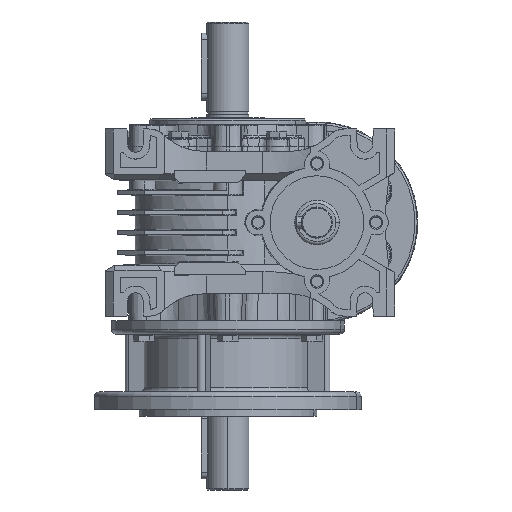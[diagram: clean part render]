
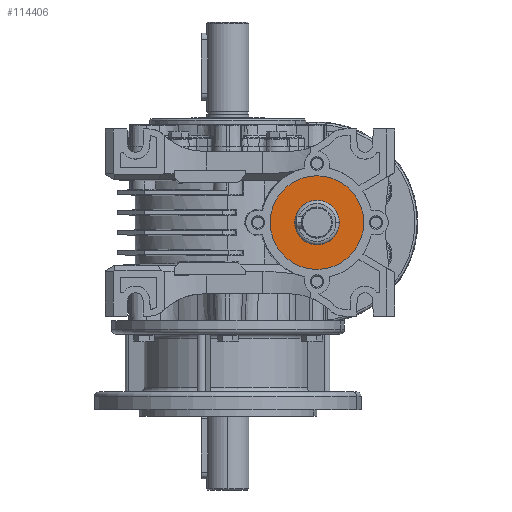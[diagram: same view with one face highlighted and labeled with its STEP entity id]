
A CAD part, left-side view. The second image highlights one B-rep face of the part: STEP entity #114406.
In plain terms, the highlighted planar face has unit normal (-1, 0, 0).
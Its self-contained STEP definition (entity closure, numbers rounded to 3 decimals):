
#303 = CIRCLE ( 'NONE', #70375, 10. ) ;
#755 = DIRECTION ( 'NONE',  ( 1., 0., 0. ) ) ;
#4462 = CIRCLE ( 'NONE', #58711, 21. ) ;
#19114 = CARTESIAN_POINT ( 'NONE',  ( -54.524, -40., 0. ) ) ;
#21447 = CARTESIAN_POINT ( 'NONE',  ( -54.524, -40., 0. ) ) ;
#21514 = VERTEX_POINT ( 'NONE', #58504 ) ;
#28756 = EDGE_CURVE ( 'NONE', #125583, #81321, #4462, .T. ) ;
#33444 = CARTESIAN_POINT ( 'NONE',  ( -54.524, -40., 21. ) ) ;
#33607 = CARTESIAN_POINT ( 'NONE',  ( -54.524, -50., 0. ) ) ;
#37127 = EDGE_CURVE ( 'NONE', #21514, #134495, #128224, .T. ) ;
#37849 = ORIENTED_EDGE ( 'NONE', *, *, #28756, .F. ) ;
#42065 = DIRECTION ( 'NONE',  ( -1., 0., 0. ) ) ;
#42998 = EDGE_LOOP ( 'NONE', ( #72231, #37849 ) ) ;
#52511 = ORIENTED_EDGE ( 'NONE', *, *, #37127, .F. ) ;
#58504 = CARTESIAN_POINT ( 'NONE',  ( -54.524, -30., 0. ) ) ;
#58711 = AXIS2_PLACEMENT_3D ( 'NONE', #107548, #755, #96277 ) ;
#62297 = DIRECTION ( 'NONE',  ( 0., 0., 1. ) ) ;
#66480 = EDGE_CURVE ( 'NONE', #81321, #125583, #125347, .T. ) ;
#69937 = PLANE ( 'NONE',  #100201 ) ;
#70375 = AXIS2_PLACEMENT_3D ( 'NONE', #109222, #42065, #87340 ) ;
#71341 = DIRECTION ( 'NONE',  ( 0., 0., 1. ) ) ;
#72231 = ORIENTED_EDGE ( 'NONE', *, *, #66480, .F. ) ;
#77345 = DIRECTION ( 'NONE',  ( -1., 0., 0. ) ) ;
#81280 = CARTESIAN_POINT ( 'NONE',  ( -54.524, -40., 0. ) ) ;
#81321 = VERTEX_POINT ( 'NONE', #33444 ) ;
#81541 = ORIENTED_EDGE ( 'NONE', *, *, #109044, .F. ) ;
#82445 = AXIS2_PLACEMENT_3D ( 'NONE', #19114, #94816, #62297 ) ;
#87340 = DIRECTION ( 'NONE',  ( 0., 0., 1. ) ) ;
#92111 = AXIS2_PLACEMENT_3D ( 'NONE', #21447, #77345, #99252 ) ;
#94816 = DIRECTION ( 'NONE',  ( 1., 0., 0. ) ) ;
#96277 = DIRECTION ( 'NONE',  ( 0., 0., 1. ) ) ;
#99252 = DIRECTION ( 'NONE',  ( 0., 0., 1. ) ) ;
#100201 = AXIS2_PLACEMENT_3D ( 'NONE', #81280, #103160, #71341 ) ;
#100817 = CARTESIAN_POINT ( 'NONE',  ( -54.524, -40., -21. ) ) ;
#103160 = DIRECTION ( 'NONE',  ( -1., 0., 0. ) ) ;
#107548 = CARTESIAN_POINT ( 'NONE',  ( -54.524, -40., 0. ) ) ;
#108924 = FACE_OUTER_BOUND ( 'NONE', #42998, .T. ) ;
#109044 = EDGE_CURVE ( 'NONE', #134495, #21514, #303, .T. ) ;
#109222 = CARTESIAN_POINT ( 'NONE',  ( -54.524, -40., 0. ) ) ;
#114406 = ADVANCED_FACE ( 'NONE', ( #119530, #108924 ), #69937, .T. ) ;
#115944 = EDGE_LOOP ( 'NONE', ( #52511, #81541 ) ) ;
#119530 = FACE_BOUND ( 'NONE', #115944, .T. ) ;
#125347 = CIRCLE ( 'NONE', #82445, 21. ) ;
#125583 = VERTEX_POINT ( 'NONE', #100817 ) ;
#128224 = CIRCLE ( 'NONE', #92111, 10. ) ;
#134495 = VERTEX_POINT ( 'NONE', #33607 ) ;
